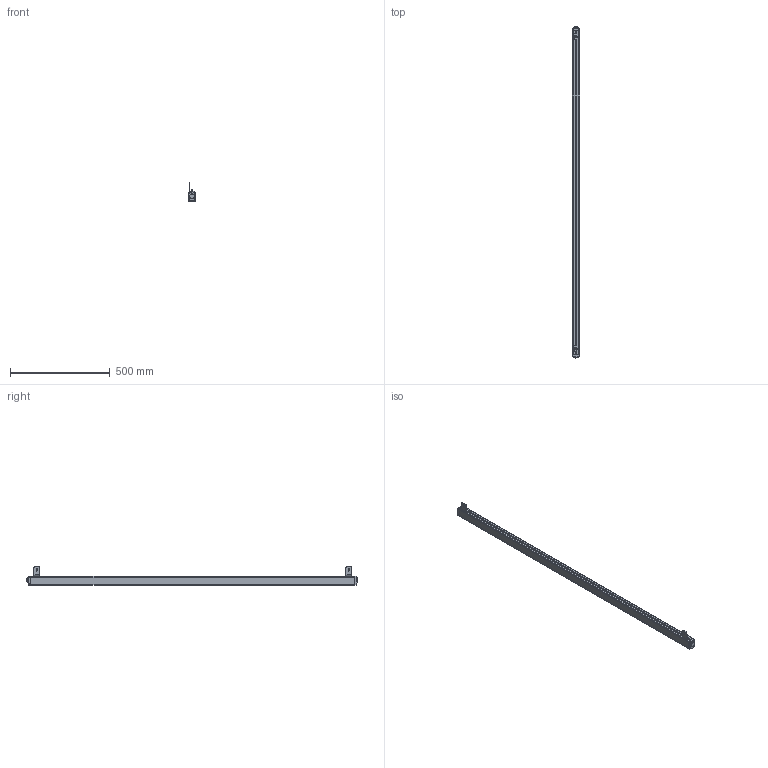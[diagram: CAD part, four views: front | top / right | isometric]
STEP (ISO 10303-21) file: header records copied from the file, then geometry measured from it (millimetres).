
FILE_DESCRIPTION((''),'2;1');
FILE_NAME('ESCL-00_ASM','2021-07-17T11:13:12',('18720616900'),(''),'CREO PARAMETRIC BY PTC INC, 2019010','CREO PARAMETRIC BY PTC INC, 2019010','');
FILE_SCHEMA(('CONFIG_CONTROL_DESIGN'));
Products named in the file (12): ESCL-00; ESCL-3-SOLID1000; ESCL-4-SOLID1000; HKCT1_-4-SOLID1; L10001; M6-8--0001; M6-1--00; M6-1-00; 00; M6-80001_ASM; L1--0001_ASM; ESCL-00_ASM
Assembly tree (12 placements, depth 4):
  ESCL-00_ASM
    ESCL-00
    ESCL-3-SOLID1000
    ESCL-4-SOLID1000
    HKCT1_-4-SOLID1
    L1--0001_ASM  x2
      L10001
      M6-80001_ASM
        M6-8--0001
        M6-1--00
        M6-1-00
        00
Bounding box: 36.1 x 1665.1 x 91.11 mm (x, y, z)
Volume: 2380919 mm3; surface area: 347205.2 mm2
Topology: 14 solids, 14 shells, 625 faces, 1645 edges, 1070 vertices
Faces by surface type: plane 226, cylinder 208, cone 78, bspline 66, torus 47
Entity records: 76177 total; most frequent: CARTESIAN_POINT 63991, ORIENTED_EDGE 2664, DIRECTION 2275, EDGE_CURVE 1332, VERTEX_POINT 872, AXIS2_PLACEMENT_3D 816, VECTOR 643, LINE 643
